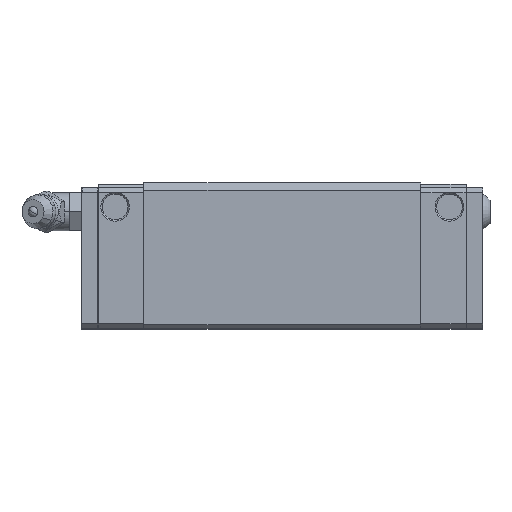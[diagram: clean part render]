
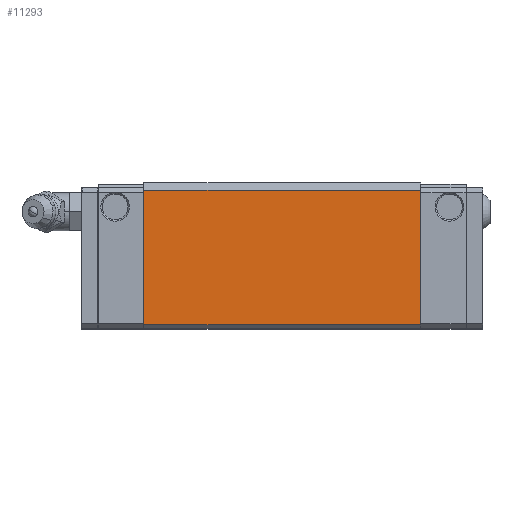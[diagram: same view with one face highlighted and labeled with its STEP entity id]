
A CAD part, top view. The second image highlights one B-rep face of the part: STEP entity #11293.
In plain terms, the highlighted planar face has unit normal (0, 0, 1).
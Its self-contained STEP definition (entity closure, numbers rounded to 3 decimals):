
#258 = LINE ( 'NONE', #5362, #12029 ) ;
#435 = DIRECTION ( 'NONE',  ( 0., 0., 1. ) ) ;
#634 = EDGE_CURVE ( 'NONE', #10795, #5240, #9795, .T. ) ;
#1798 = EDGE_CURVE ( 'NONE', #10795, #2970, #258, .T. ) ;
#2347 = AXIS2_PLACEMENT_3D ( 'NONE', #5946, #435, #4570 ) ;
#2970 = VERTEX_POINT ( 'NONE', #7254 ) ;
#3111 = EDGE_CURVE ( 'NONE', #2970, #4134, #4855, .T. ) ;
#3577 = DIRECTION ( 'NONE',  ( 0., -1., 0. ) ) ;
#3865 = VECTOR ( 'NONE', #7619, 1000. ) ;
#3916 = CARTESIAN_POINT ( 'NONE',  ( 29., 12.5, 24. ) ) ;
#3956 = ORIENTED_EDGE ( 'NONE', *, *, #3111, .F. ) ;
#4134 = VERTEX_POINT ( 'NONE', #12624 ) ;
#4210 = ORIENTED_EDGE ( 'NONE', *, *, #9062, .T. ) ;
#4390 = DIRECTION ( 'NONE',  ( 0., -1., 0. ) ) ;
#4570 = DIRECTION ( 'NONE',  ( 0., -1., 0. ) ) ;
#4855 = LINE ( 'NONE', #10995, #11594 ) ;
#4983 = ORIENTED_EDGE ( 'NONE', *, *, #634, .T. ) ;
#5240 = VERTEX_POINT ( 'NONE', #10409 ) ;
#5362 = CARTESIAN_POINT ( 'NONE',  ( 29., 12.5, 24. ) ) ;
#5713 = EDGE_LOOP ( 'NONE', ( #4210, #3956, #6781, #4983 ) ) ;
#5778 = CARTESIAN_POINT ( 'NONE',  ( 29., 12.5, 24. ) ) ;
#5833 = LINE ( 'NONE', #6723, #12990 ) ;
#5946 = CARTESIAN_POINT ( 'NONE',  ( -29., 9., 24. ) ) ;
#6723 = CARTESIAN_POINT ( 'NONE',  ( -29., 12.5, 24. ) ) ;
#6781 = ORIENTED_EDGE ( 'NONE', *, *, #1798, .F. ) ;
#7254 = CARTESIAN_POINT ( 'NONE',  ( 29., -15.7, 24. ) ) ;
#7619 = DIRECTION ( 'NONE',  ( -1., 0., 0. ) ) ;
#9062 = EDGE_CURVE ( 'NONE', #5240, #4134, #5833, .T. ) ;
#9795 = LINE ( 'NONE', #5778, #3865 ) ;
#9836 = DIRECTION ( 'NONE',  ( -1., 0., 0. ) ) ;
#10409 = CARTESIAN_POINT ( 'NONE',  ( -29., 12.5, 24. ) ) ;
#10795 = VERTEX_POINT ( 'NONE', #3916 ) ;
#10995 = CARTESIAN_POINT ( 'NONE',  ( 29., -15.7, 24. ) ) ;
#11293 = ADVANCED_FACE ( 'NONE', ( #13015 ), #12132, .T. ) ;
#11594 = VECTOR ( 'NONE', #9836, 1000. ) ;
#12029 = VECTOR ( 'NONE', #4390, 1000. ) ;
#12132 = PLANE ( 'NONE',  #2347 ) ;
#12624 = CARTESIAN_POINT ( 'NONE',  ( -29., -15.7, 24. ) ) ;
#12990 = VECTOR ( 'NONE', #3577, 1000. ) ;
#13015 = FACE_OUTER_BOUND ( 'NONE', #5713, .T. ) ;
